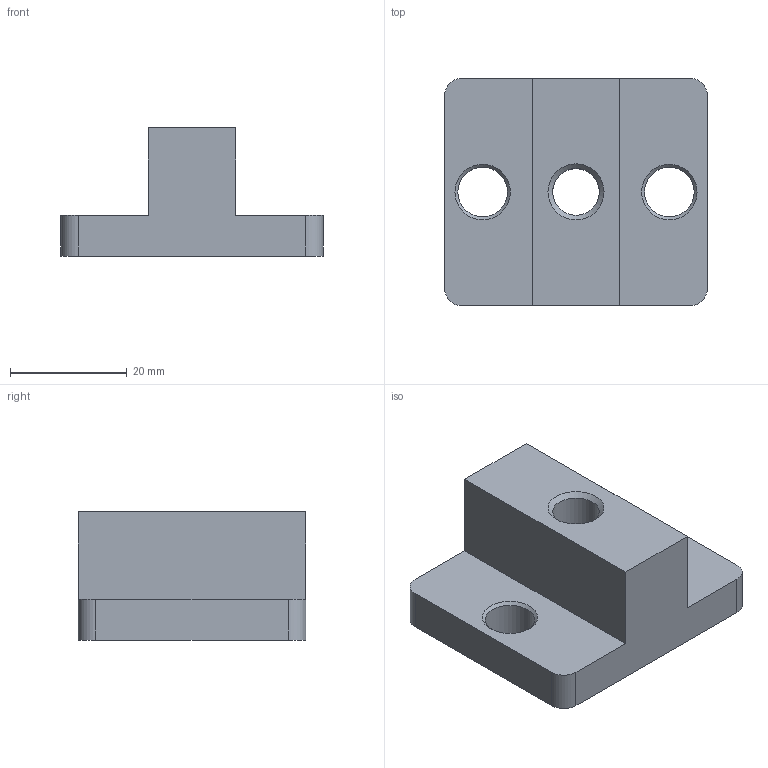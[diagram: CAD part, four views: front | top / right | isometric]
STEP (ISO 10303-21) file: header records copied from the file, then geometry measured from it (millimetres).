
FILE_DESCRIPTION(/* description */ (''),/* implementation_level */ '2;1');
FILE_NAME(/* name */ 'TRAYLOADER.89.stp',/* time_stamp */ '2025-05-12T17:09:26+02:00',/* author */ (''),/* organization */ (''),/* preprocessor_version */ 'ST-DEVELOPER v19.4',/* originating_system */ 'SIEMENS PLM Software NX2306.5001',/* authorisation */ '');
FILE_SCHEMA (('AP203_CONFIGURATION_CONTROLLED_3D_DESIGN_OF_MECHANICAL_PARTS_AND_ASSEMBLIES_MIM_LF { 1 0 10303 403 2 1 2}'));
Length unit declared in the file: millimetre
Products named in the file (1): TRAYLOADER.89_objects
Bounding box: 45 x 39 x 22 mm (x, y, z)
Volume: 19074.6 mm3; surface area: 6801.9 mm2
Topology: 1 solids, 1 shells, 23 faces, 59 edges, 38 vertices
Faces by surface type: plane 10, cylinder 7, cone 6
Full cylindrical faces by diameter (mm): 8 x1, 8.5 x2
Entity records: 736 total; most frequent: DIRECTION 116, CARTESIAN_POINT 108, ORIENTED_EDGE 96, EDGE_CURVE 48, AXIS2_PLACEMENT_3D 44, EDGE_LOOP 38, VERTEX_POINT 36, FACE_BOUND 28
